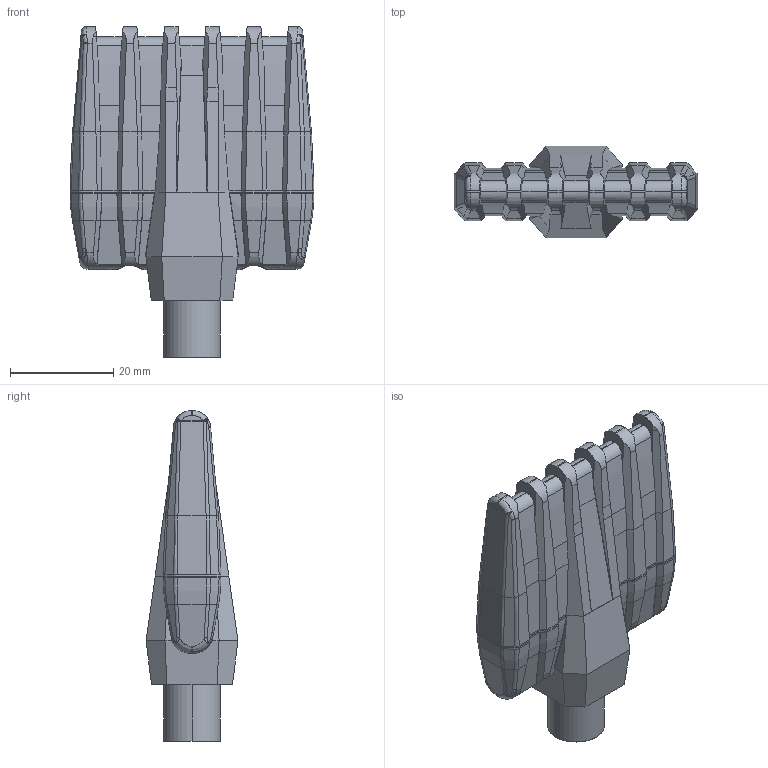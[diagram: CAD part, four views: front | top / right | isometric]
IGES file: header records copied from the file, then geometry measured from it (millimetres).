
Start section: SolidWorks IGES file using analytic representation for surfaces
Global section: file name: G:\SILVENT AB\ENGINEERING\Drawings\Övrigt\IGES\Silvent 9002W.IGS; native system: SolidWorks 2011; preprocessor: SolidWorks 2011; author: r.tibell; date: 130418.134802; units: millimetre
Bounding box: 47.21 x 17.76 x 64 mm (x, y, z)
Surface area: 7794.8 mm2 (no closed solid volume)
Topology: 0 solids, 0 shells, 522 faces, 3855 edges, 3855 vertices
Faces by surface type: bspline 328, revolution 194
